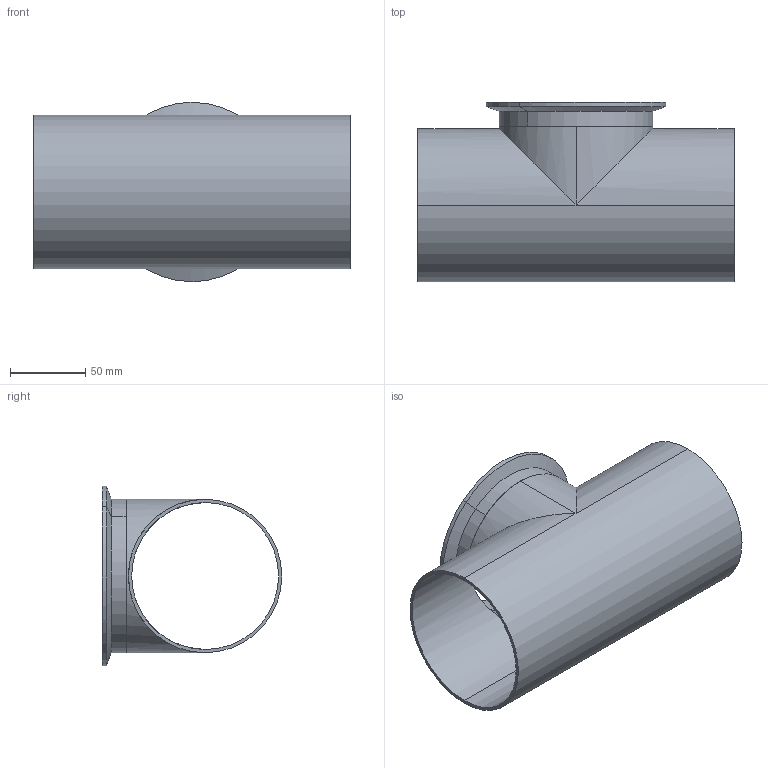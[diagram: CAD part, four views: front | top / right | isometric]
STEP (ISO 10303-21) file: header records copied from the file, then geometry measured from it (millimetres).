
FILE_DESCRIPTION (( 'STEP AP203' ), '1' );
FILE_NAME ('E7WWCS4.0.STEP', '2018-05-02T19:49:36', ( 'vneprd' ), ( 'Microsoft' ), 'SwSTEP 2.0', 'SolidWorks 2014', '' );
FILE_SCHEMA (( 'CONFIG_CONTROL_DESIGN' ));
Length unit declared in the file: inch
Products named in the file (3): V7WS4.0; EG2CS4.0; E7WWCS4.0
Assembly tree (2 placements, depth 2):
  E7WWCS4.0
    V7WS4.0
    EG2CS4.0
Bounding box: 209.55 x 119 x 118.91 mm (x, y, z)
Volume: 153603.9 mm3; surface area: 142985.6 mm2
Topology: 2 solids, 2 shells, 30 faces, 62 edges, 36 vertices
Faces by surface type: cylinder 16, plane 6, torus 6, cone 2
Entity records: 1119 total; most frequent: DIRECTION 166, CARTESIAN_POINT 145, ORIENTED_EDGE 124, AXIS2_PLACEMENT_3D 73, EDGE_CURVE 62, CIRCLE 38, VERTEX_POINT 36, EDGE_LOOP 36
